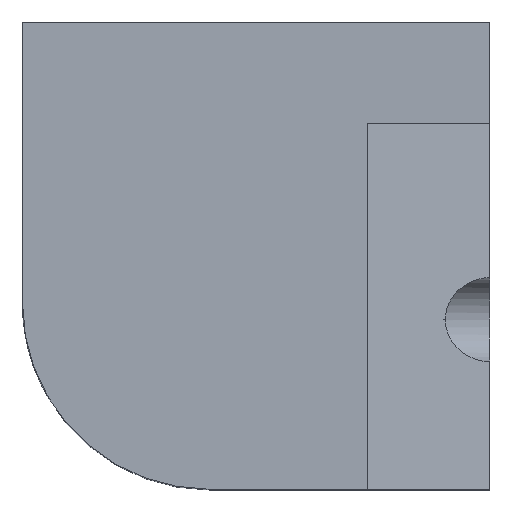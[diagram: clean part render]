
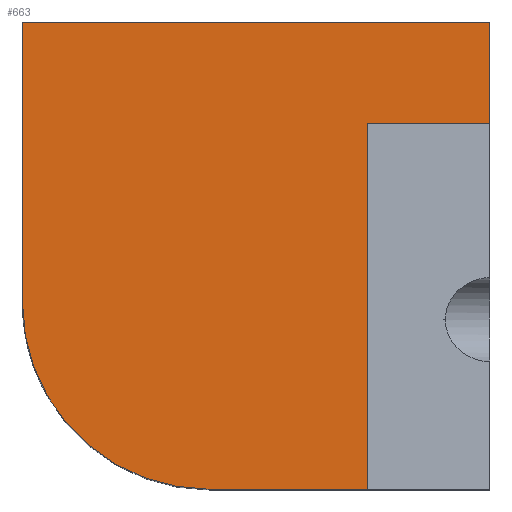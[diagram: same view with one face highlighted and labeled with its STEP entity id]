
A CAD part, top view. The second image highlights one B-rep face of the part: STEP entity #663.
In plain terms, the highlighted planar face has unit normal (0, 0, 1).
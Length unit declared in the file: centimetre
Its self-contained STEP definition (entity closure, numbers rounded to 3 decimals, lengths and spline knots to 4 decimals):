
#4 = ORIENTED_EDGE ( 'NONE', *, *, #282, .T. ) ;
#35 = LINE ( 'NONE', #77, #150 ) ;
#38 = CARTESIAN_POINT ( 'NONE',  ( 399.4489, 0., 1000. ) ) ;
#55 = ORIENTED_EDGE ( 'NONE', *, *, #823, .F. ) ;
#65 = CARTESIAN_POINT ( 'NONE',  ( 0., 1000., 1000. ) ) ;
#66 = ORIENTED_EDGE ( 'NONE', *, *, #223, .T. ) ;
#77 = CARTESIAN_POINT ( 'NONE',  ( 0., 1000., 1000. ) ) ;
#93 = LINE ( 'NONE', #840, #231 ) ;
#120 = VERTEX_POINT ( 'NONE', #38 ) ;
#136 = LINE ( 'NONE', #200, #316 ) ;
#150 = VECTOR ( 'NONE', #831, 100. ) ;
#159 = VERTEX_POINT ( 'NONE', #860 ) ;
#171 = ORIENTED_EDGE ( 'NONE', *, *, #322, .T. ) ;
#179 = EDGE_LOOP ( 'NONE', ( #310, #55, #689, #171, #222, #4, #66 ) ) ;
#200 = CARTESIAN_POINT ( 'NONE',  ( 0., 1000., 1000. ) ) ;
#206 = DIRECTION ( 'NONE',  ( 0., 0., 1. ) ) ;
#212 = DIRECTION ( 'NONE',  ( 0., 1., 0. ) ) ;
#222 = ORIENTED_EDGE ( 'NONE', *, *, #254, .T. ) ;
#223 = EDGE_CURVE ( 'NONE', #120, #159, #721, .T. ) ;
#228 = VERTEX_POINT ( 'NONE', #873 ) ;
#231 = VECTOR ( 'NONE', #311, 100. ) ;
#250 = DIRECTION ( 'NONE',  ( 1., 0., 0. ) ) ;
#254 = EDGE_CURVE ( 'NONE', #284, #370, #136, .T. ) ;
#267 = EDGE_CURVE ( 'NONE', #492, #228, #559, .T. ) ;
#274 = PLANE ( 'NONE',  #712 ) ;
#282 = EDGE_CURVE ( 'NONE', #370, #120, #525, .T. ) ;
#284 = VERTEX_POINT ( 'NONE', #65 ) ;
#293 = VERTEX_POINT ( 'NONE', #610 ) ;
#310 = ORIENTED_EDGE ( 'NONE', *, *, #601, .F. ) ;
#311 = DIRECTION ( 'NONE',  ( -1., 0., 0. ) ) ;
#316 = VECTOR ( 'NONE', #870, 100. ) ;
#322 = EDGE_CURVE ( 'NONE', #228, #284, #35, .T. ) ;
#370 = VERTEX_POINT ( 'NONE', #371 ) ;
#371 = CARTESIAN_POINT ( 'NONE',  ( 0., 399.4489, 1000. ) ) ;
#401 = VECTOR ( 'NONE', #250, 100. ) ;
#403 = CARTESIAN_POINT ( 'NONE',  ( 399.4489, 399.4489, 1000. ) ) ;
#417 = FACE_OUTER_BOUND ( 'NONE', #179, .T. ) ;
#418 = DIRECTION ( 'NONE',  ( 0., -1., 0. ) ) ;
#420 = AXIS2_PLACEMENT_3D ( 'NONE', #403, #676, #743 ) ;
#435 = VECTOR ( 'NONE', #418, 100. ) ;
#473 = CARTESIAN_POINT ( 'NONE',  ( 0., 0., 1000. ) ) ;
#478 = LINE ( 'NONE', #615, #435 ) ;
#479 = CARTESIAN_POINT ( 'NONE',  ( 1000., 1000., 1000. ) ) ;
#492 = VERTEX_POINT ( 'NONE', #597 ) ;
#508 = VECTOR ( 'NONE', #212, 100. ) ;
#525 = CIRCLE ( 'NONE', #420, 399.4489 ) ;
#559 = LINE ( 'NONE', #479, #508 ) ;
#597 = CARTESIAN_POINT ( 'NONE',  ( 1000., 783.4373, 1000. ) ) ;
#601 = EDGE_CURVE ( 'NONE', #293, #159, #478, .T. ) ;
#610 = CARTESIAN_POINT ( 'NONE',  ( 737.7995, 783.4373, 1000. ) ) ;
#614 = DIRECTION ( 'NONE',  ( 1., 0., 0. ) ) ;
#615 = CARTESIAN_POINT ( 'NONE',  ( 737.7995, 783.4373, 1000. ) ) ;
#663 = ADVANCED_FACE ( 'NONE', ( #417 ), #274, .T. ) ;
#676 = DIRECTION ( 'NONE',  ( 0., 0., 1. ) ) ;
#689 = ORIENTED_EDGE ( 'NONE', *, *, #267, .T. ) ;
#712 = AXIS2_PLACEMENT_3D ( 'NONE', #473, #206, #614 ) ;
#721 = LINE ( 'NONE', #854, #401 ) ;
#743 = DIRECTION ( 'NONE',  ( 1., 0., 0. ) ) ;
#823 = EDGE_CURVE ( 'NONE', #492, #293, #93, .T. ) ;
#831 = DIRECTION ( 'NONE',  ( -1., 0., 0. ) ) ;
#840 = CARTESIAN_POINT ( 'NONE',  ( 737.7995, 783.4373, 1000. ) ) ;
#854 = CARTESIAN_POINT ( 'NONE',  ( 0., 0., 1000. ) ) ;
#860 = CARTESIAN_POINT ( 'NONE',  ( 737.7995, 0., 1000. ) ) ;
#870 = DIRECTION ( 'NONE',  ( 0., -1., 0. ) ) ;
#873 = CARTESIAN_POINT ( 'NONE',  ( 1000., 1000., 1000. ) ) ;
